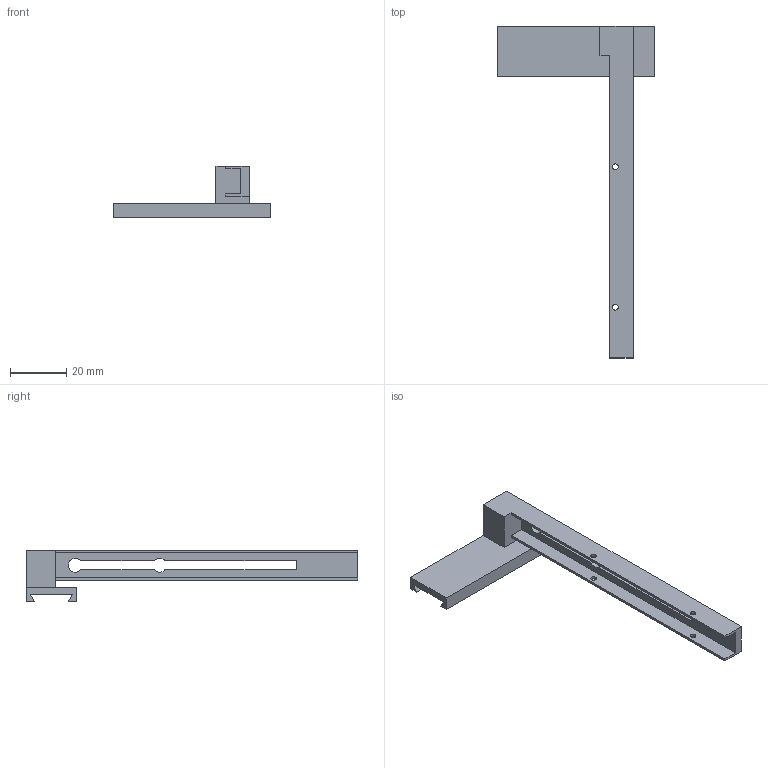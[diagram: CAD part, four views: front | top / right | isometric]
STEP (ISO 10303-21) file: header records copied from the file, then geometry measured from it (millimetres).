
FILE_DESCRIPTION(('Open CASCADE Model'),'2;1');
FILE_NAME('Open CASCADE Shape Model','2026-10-15T19:33:12',('Author'),( 'Open CASCADE'),'Open CASCADE STEP processor 7.9','Open CASCADE 7.9' ,'Unknown');
FILE_SCHEMA(('AUTOMOTIVE_DESIGN { 1 0 10303 214 1 1 1 1 }'));
Length unit declared in the file: millimetre
Products named in the file (1): Open CASCADE STEP translator 7.9 14
Bounding box: 56 x 118 x 18.4 mm (x, y, z)
Volume: 8575.1 mm3; surface area: 8992.4 mm2
Topology: 1 solids, 1 shells, 33 faces, 93 edges, 62 vertices
Faces by surface type: plane 26, cylinder 7
Full cylindrical faces by diameter (mm): 2 x4
Entity records: 2283 total; most frequent: CARTESIAN_POINT 518, DIRECTION 288, LINE 192, VECTOR 192, ORIENTED_EDGE 186, PCURVE 186, DEFINITIONAL_REPRESENTATION 186, EDGE_CURVE 93
